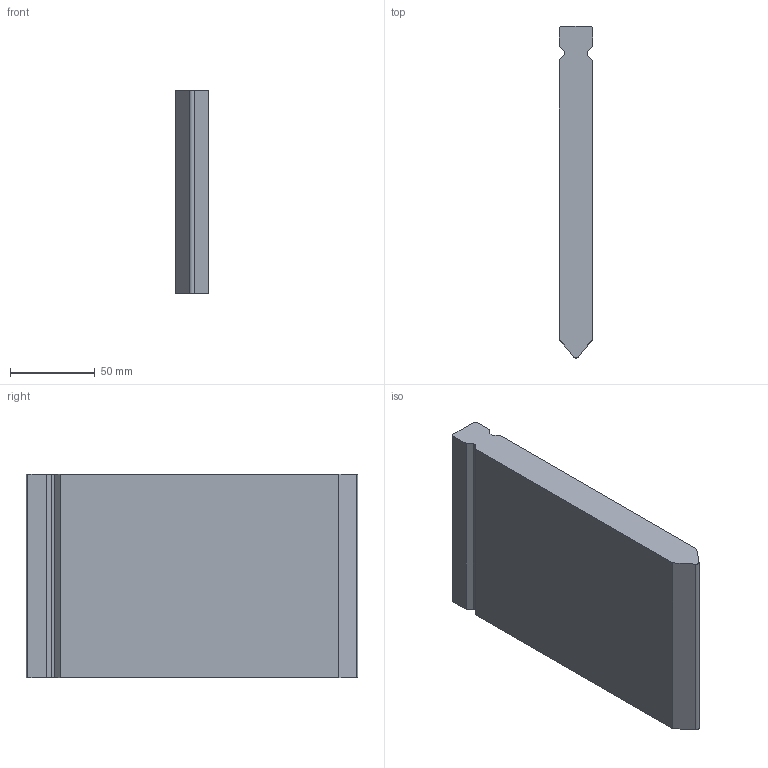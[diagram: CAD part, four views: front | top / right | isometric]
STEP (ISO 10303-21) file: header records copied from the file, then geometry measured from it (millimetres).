
FILE_DESCRIPTION (( 'STEP AP214' ), '1' );
FILE_NAME ('R10W_78.STEP', '2018-04-17T17:05:54', ( '' ), ( '' ), 'SwSTEP 2.0', 'SolidWorks 2017', '' );
FILE_SCHEMA (( 'AUTOMOTIVE_DESIGN' ));
Length unit declared in the file: millimetre
Products named in the file (1): R10W_78
Bounding box: 20 x 195.99 x 120 mm (x, y, z)
Volume: 454343 mm3; surface area: 58435.4 mm2
Topology: 1 solids, 1 shells, 18 faces, 48 edges, 32 vertices
Faces by surface type: plane 17, cylinder 1
Entity records: 588 total; most frequent: CARTESIAN_POINT 99, ORIENTED_EDGE 96, DIRECTION 88, EDGE_CURVE 48, LINE 46, VECTOR 46, VERTEX_POINT 32, AXIS2_PLACEMENT_3D 21
